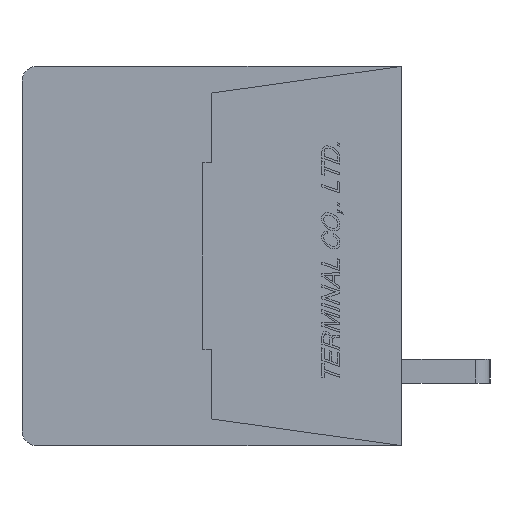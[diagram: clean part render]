
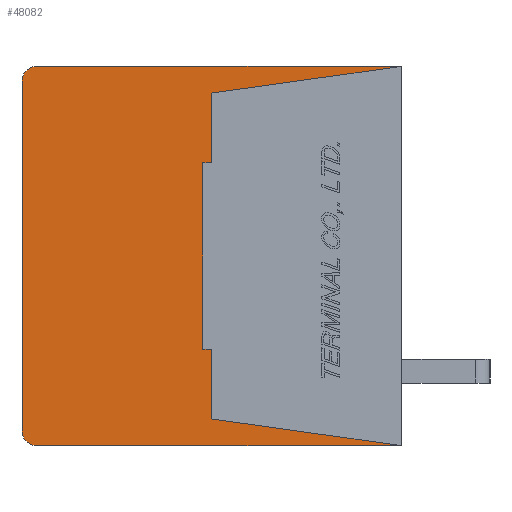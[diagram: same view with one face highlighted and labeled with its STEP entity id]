
A CAD part, left-side view. The second image highlights one B-rep face of the part: STEP entity #48082.
In plain terms, the highlighted planar face has unit normal (-1, 0, 0).
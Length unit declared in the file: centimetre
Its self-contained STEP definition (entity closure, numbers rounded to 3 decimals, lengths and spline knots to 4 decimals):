
#405=CIRCLE('',#82619,0.05);
#406=CIRCLE('',#82620,0.05);
#2957=VERTEX_POINT('',#63460);
#2958=VERTEX_POINT('',#63462);
#2959=VERTEX_POINT('',#63466);
#2960=VERTEX_POINT('',#63470);
#2961=VERTEX_POINT('',#63474);
#2962=VERTEX_POINT('',#63478);
#2963=VERTEX_POINT('',#63482);
#2964=VERTEX_POINT('',#63486);
#2965=VERTEX_POINT('',#63490);
#2966=VERTEX_POINT('',#63492);
#2967=VERTEX_POINT('',#63494);
#2968=VERTEX_POINT('',#63496);
#7992=VECTOR('',#53559,1.);
#7995=VECTOR('',#53563,1.);
#7997=VECTOR('',#53566,1.);
#7999=VECTOR('',#53569,1.);
#8001=VECTOR('',#53572,1.);
#8003=VECTOR('',#53575,1.);
#8005=VECTOR('',#53578,1.);
#8006=VECTOR('',#53580,1.);
#8007=VECTOR('',#53583,1.);
#8008=VECTOR('',#53586,1.);
#13737=LINE('',#63461,#7992);
#13740=LINE('',#63467,#7995);
#13742=LINE('',#63471,#7997);
#13744=LINE('',#63475,#7999);
#13746=LINE('',#63479,#8001);
#13748=LINE('',#63483,#8003);
#13750=LINE('',#63487,#8005);
#13751=LINE('',#63489,#8006);
#13752=LINE('',#63493,#8007);
#13753=LINE('',#63497,#8008);
#19590=EDGE_CURVE('',#2958,#2957,#13737,.T.);
#19593=EDGE_CURVE('',#2957,#2959,#13740,.T.);
#19595=EDGE_CURVE('',#2959,#2960,#13742,.T.);
#19597=EDGE_CURVE('',#2960,#2961,#13744,.T.);
#19599=EDGE_CURVE('',#2961,#2962,#13746,.T.);
#19601=EDGE_CURVE('',#2962,#2963,#13748,.T.);
#19603=EDGE_CURVE('',#2963,#2964,#13750,.T.);
#19604=EDGE_CURVE('',#2964,#2965,#13751,.T.);
#19605=EDGE_CURVE('',#2966,#2965,#405,.T.);
#19606=EDGE_CURVE('',#2966,#2967,#13752,.T.);
#19607=EDGE_CURVE('',#2968,#2967,#406,.T.);
#19608=EDGE_CURVE('',#2968,#2958,#13753,.T.);
#27575=ORIENTED_EDGE('',*,*,#19590,.T.);
#27576=ORIENTED_EDGE('',*,*,#19593,.T.);
#27577=ORIENTED_EDGE('',*,*,#19595,.T.);
#27578=ORIENTED_EDGE('',*,*,#19597,.T.);
#27579=ORIENTED_EDGE('',*,*,#19599,.T.);
#27580=ORIENTED_EDGE('',*,*,#19601,.T.);
#27581=ORIENTED_EDGE('',*,*,#19603,.T.);
#27582=ORIENTED_EDGE('',*,*,#19604,.T.);
#27583=ORIENTED_EDGE('',*,*,#19605,.F.);
#27584=ORIENTED_EDGE('',*,*,#19606,.T.);
#27585=ORIENTED_EDGE('',*,*,#19607,.F.);
#27586=ORIENTED_EDGE('',*,*,#19608,.T.);
#41642=EDGE_LOOP('',(#27575,#27576,#27577,#27578,#27579,#27580,#27581,#27582,
#27583,#27584,#27585,#27586));
#44875=FACE_BOUND('',#41642,.T.);
#48082=ADVANCED_FACE('',(#44875),#50965,.F.);
#50965=PLANE('',#82618);
#53559=DIRECTION('',(0.,0.99,0.139));
#53563=DIRECTION('',(0.,0.,1.));
#53566=DIRECTION('',(0.,1.,0.));
#53569=DIRECTION('',(0.,0.,1.));
#53572=DIRECTION('',(0.,-1.,0.));
#53575=DIRECTION('',(0.,0.,1.));
#53578=DIRECTION('',(0.,-0.99,0.139));
#53579=DIRECTION('',(1.,0.,0.));
#53580=DIRECTION('',(0.,1.,0.));
#53581=DIRECTION('',(1.,0.,0.));
#53582=DIRECTION('',(0.,0.,-0.05));
#53583=DIRECTION('',(0.,0.,-1.));
#53584=DIRECTION('',(1.,0.,0.));
#53585=DIRECTION('',(0.,0.,-0.05));
#53586=DIRECTION('',(0.,-1.,0.));
#63460=CARTESIAN_POINT('',(-1.,0.64,-0.55));
#63461=CARTESIAN_POINT('',(-1.,0.5152,-0.5675));
#63462=CARTESIAN_POINT('',(-1.,0.,-0.64));
#63466=CARTESIAN_POINT('',(-1.,0.64,-0.315));
#63467=CARTESIAN_POINT('',(-1.,0.64,-0.2163));
#63470=CARTESIAN_POINT('',(-1.,0.67,-0.315));
#63471=CARTESIAN_POINT('',(-1.,0.6447,-0.315));
#63474=CARTESIAN_POINT('',(-1.,0.67,0.315));
#63475=CARTESIAN_POINT('',(-1.,0.67,0.));
#63478=CARTESIAN_POINT('',(-1.,0.64,0.315));
#63479=CARTESIAN_POINT('',(-1.,0.6447,0.315));
#63482=CARTESIAN_POINT('',(-1.,0.64,0.55));
#63483=CARTESIAN_POINT('',(-1.,0.64,0.2163));
#63486=CARTESIAN_POINT('',(-1.,0.,0.64));
#63487=CARTESIAN_POINT('',(-1.,0.5152,0.5675));
#63488=CARTESIAN_POINT('',(-1.,0.6345,0.));
#63489=CARTESIAN_POINT('',(-1.,0.,0.64));
#63490=CARTESIAN_POINT('',(-1.,1.23,0.64));
#63491=CARTESIAN_POINT('',(-1.,1.23,0.59));
#63492=CARTESIAN_POINT('',(-1.,1.28,0.59));
#63493=CARTESIAN_POINT('',(-1.,1.28,0.59));
#63494=CARTESIAN_POINT('',(-1.,1.28,-0.59));
#63495=CARTESIAN_POINT('',(-1.,1.23,-0.59));
#63496=CARTESIAN_POINT('',(-1.,1.23,-0.64));
#63497=CARTESIAN_POINT('',(-1.,1.23,-0.64));
#82618=AXIS2_PLACEMENT_3D('',#63488,#53579,$);
#82619=AXIS2_PLACEMENT_3D('',#63491,#53581,#53582);
#82620=AXIS2_PLACEMENT_3D('',#63495,#53584,#53585);
